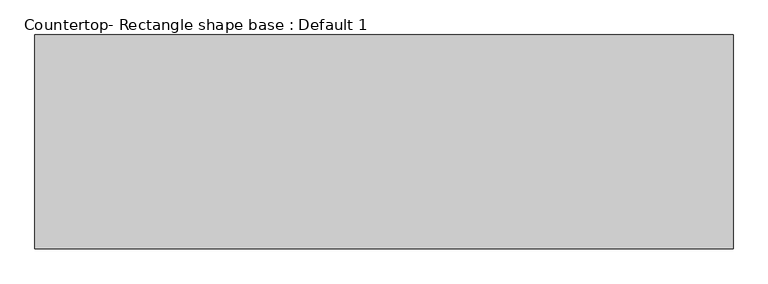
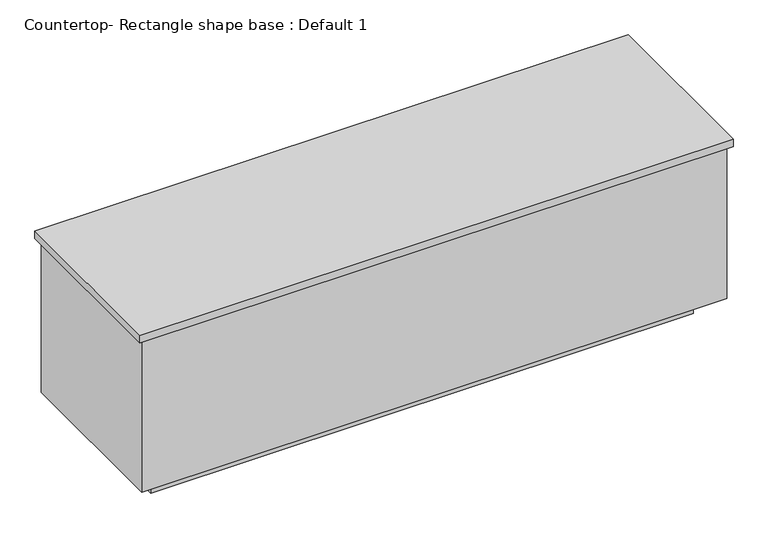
"""IFC4 building model written with IfcOpenShell, lengths in millimetres: proxy geometry, Countertop- Rectangle shape base : Default 1."""

from ifc_helpers import new_model, si_unit, frame, origin, origin_with_axes, place, context, project, spatial, polyline, outline, extrude, source, transform, mapped, element, save


def countertop_rectangle_shape_base_default_1_22753dd3(model_context):
    return source(origin(), model_context, "Body", "SweptSolid", [
        extrude(outline(polyline([(-657.225, -53.975), (-657.225, 815.975), (2181.225, 815.975), (2181.225, -53.975), (-657.225, -53.975)])), frame((0.0, 0.0, 876.3), z_axis=(0.0, 0.0, 1.0), x_axis=(1.0, 0.0, 0.0)), (0.0, 0.0, 1.0), 38.1),
        extrude(outline(polyline([(2162.175, 796.925), (2162.175, -34.925), (-638.175, -34.925), (-638.175, 796.925), (2162.175, 796.925)])), frame((0.0, 0.0, 101.6), z_axis=(0.0, 0.0, 1.0), x_axis=(1.0, 0.0, 0.0)), (0.0, 0.0, 1.0), 774.7),
        extrude(outline(polyline([(2060.575, 695.325), (2060.575, 66.675), (-536.575, 66.675), (-536.575, 695.325), (2060.575, 695.325)])), origin_with_axes(), (0.0, 0.0, 1.0), 101.6),
    ])


if __name__ == "__main__":
    model = new_model("IFC4")
    model_context = context("Model", 3, world=origin())
    ifc_project = project(units=[si_unit("LENGTHUNIT", "METRE", prefix="MILLI")], contexts=[model_context])
    site = spatial("IfcSite", under=ifc_project)
    building = spatial("IfcBuilding", under=site)
    placement = place(None, origin())
    countertop_rectangle_shape_base_default_1_shape = countertop_rectangle_shape_base_default_1_22753dd3(model_context)
    element("IfcBuildingElementProxy", 1, Name="Countertop- Rectangle shape base : Default 1", ObjectType="Countertop- Rectangle shape base : Default 1", at=placement, inside=building, context=model_context, shape_type="MappedRepresentation", body=[
        mapped(countertop_rectangle_shape_base_default_1_shape, transform((0.0, 0.0, 0.0), x_axis=(1.0, 0.0, 0.0), y_axis=(0.0, 1.0, 0.0), z_axis=(0.0, 0.0, 1.0))),
    ])
    save(model, "model.ifc")
